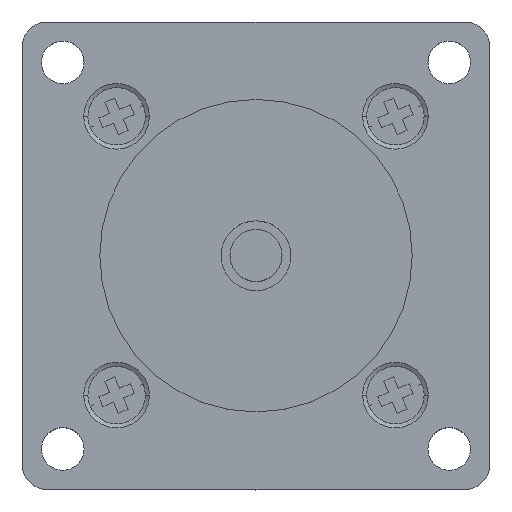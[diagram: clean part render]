
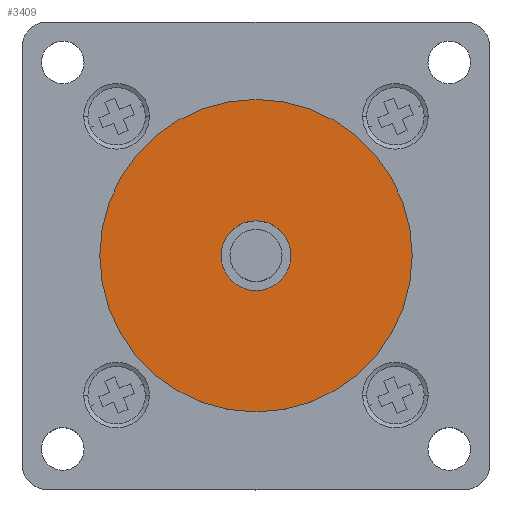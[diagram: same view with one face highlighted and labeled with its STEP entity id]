
A CAD part, top view. The second image highlights one B-rep face of the part: STEP entity #3409.
In plain terms, the highlighted planar face has unit normal (0, 0, 1) as drawn and (0, 0, -1) by its records, which use the part's own axes.
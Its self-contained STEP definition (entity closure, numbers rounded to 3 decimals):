
#43 = AXIS2_PLACEMENT_3D ( 'NONE', #3135, #397, #151 ) ;
#49 = CARTESIAN_POINT ( 'NONE',  ( -19.05, 0., -1.5 ) ) ;
#148 = AXIS2_PLACEMENT_3D ( 'NONE', #1495, #155, #2054 ) ;
#151 = DIRECTION ( 'NONE',  ( 1., 0., 0. ) ) ;
#155 = DIRECTION ( 'NONE',  ( 0., 0., -1. ) ) ;
#188 = EDGE_CURVE ( 'NONE', #2956, #627, #2678, .T. ) ;
#205 = AXIS2_PLACEMENT_3D ( 'NONE', #312, #1932, #641 ) ;
#312 = CARTESIAN_POINT ( 'NONE',  ( 0., 0., -1.5 ) ) ;
#364 = ORIENTED_EDGE ( 'NONE', *, *, #2126, .T. ) ;
#397 = DIRECTION ( 'NONE',  ( 0., 0., 1. ) ) ;
#457 = VERTEX_POINT ( 'NONE', #1679 ) ;
#473 = FACE_OUTER_BOUND ( 'NONE', #2660, .T. ) ;
#476 = DIRECTION ( 'NONE',  ( 0., 0., 1. ) ) ;
#627 = VERTEX_POINT ( 'NONE', #3521 ) ;
#641 = DIRECTION ( 'NONE',  ( -1., 0., 0. ) ) ;
#786 = CARTESIAN_POINT ( 'NONE',  ( 0., 0., -1.5 ) ) ;
#965 = PLANE ( 'NONE',  #148 ) ;
#1017 = ORIENTED_EDGE ( 'NONE', *, *, #3472, .T. ) ;
#1042 = DIRECTION ( 'NONE',  ( -1., 0., 0. ) ) ;
#1285 = EDGE_CURVE ( 'NONE', #457, #3202, #2850, .T. ) ;
#1289 = CARTESIAN_POINT ( 'NONE',  ( -4.25, 0., -1.5 ) ) ;
#1416 = AXIS2_PLACEMENT_3D ( 'NONE', #786, #2679, #1042 ) ;
#1495 = CARTESIAN_POINT ( 'NONE',  ( 0., 0., -1.5 ) ) ;
#1526 = ORIENTED_EDGE ( 'NONE', *, *, #1285, .T. ) ;
#1679 = CARTESIAN_POINT ( 'NONE',  ( 19.05, 0., -1.5 ) ) ;
#1932 = DIRECTION ( 'NONE',  ( 0., 0., -1. ) ) ;
#2054 = DIRECTION ( 'NONE',  ( -1., 0., 0. ) ) ;
#2105 = CARTESIAN_POINT ( 'NONE',  ( 0., 0., -1.5 ) ) ;
#2115 = AXIS2_PLACEMENT_3D ( 'NONE', #2105, #476, #2372 ) ;
#2118 = CIRCLE ( 'NONE', #1416, 19.05 ) ;
#2126 = EDGE_CURVE ( 'NONE', #3202, #457, #2118, .T. ) ;
#2299 = CIRCLE ( 'NONE', #2115, 4.25 ) ;
#2372 = DIRECTION ( 'NONE',  ( 1., 0., 0. ) ) ;
#2647 = FACE_BOUND ( 'NONE', #3412, .T. ) ;
#2660 = EDGE_LOOP ( 'NONE', ( #1526, #364 ) ) ;
#2678 = CIRCLE ( 'NONE', #43, 4.25 ) ;
#2679 = DIRECTION ( 'NONE',  ( 0., 0., -1. ) ) ;
#2850 = CIRCLE ( 'NONE', #205, 19.05 ) ;
#2956 = VERTEX_POINT ( 'NONE', #1289 ) ;
#3135 = CARTESIAN_POINT ( 'NONE',  ( 0., 0., -1.5 ) ) ;
#3202 = VERTEX_POINT ( 'NONE', #49 ) ;
#3409 = ADVANCED_FACE ( 'NONE', ( #2647, #473 ), #965, .T. ) ;
#3412 = EDGE_LOOP ( 'NONE', ( #1017, #3419 ) ) ;
#3419 = ORIENTED_EDGE ( 'NONE', *, *, #188, .T. ) ;
#3472 = EDGE_CURVE ( 'NONE', #627, #2956, #2299, .T. ) ;
#3521 = CARTESIAN_POINT ( 'NONE',  ( 4.25, 0., -1.5 ) ) ;
